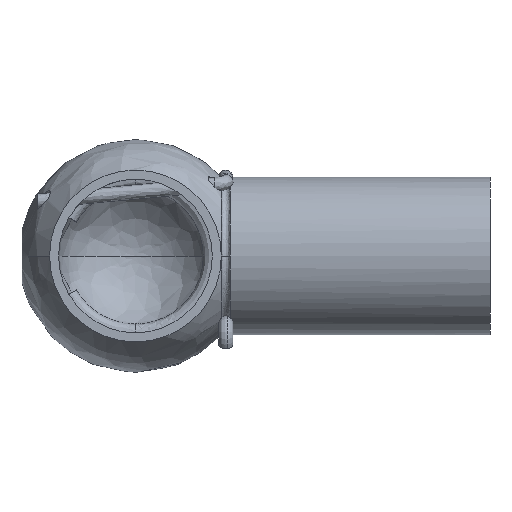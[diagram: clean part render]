
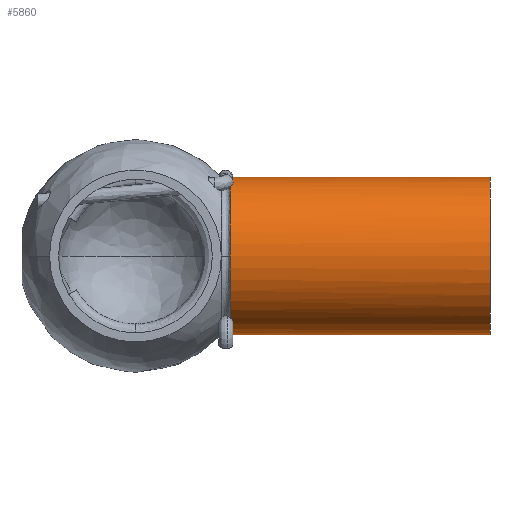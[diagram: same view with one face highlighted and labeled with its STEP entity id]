
A CAD part, front view. The second image highlights one B-rep face of the part: STEP entity #5860.
In plain terms, the highlighted cylindrical face has radius 6.65 mm (diameter 13.3 mm), a partial arc.
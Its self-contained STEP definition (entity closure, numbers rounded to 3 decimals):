
#10 = CARTESIAN_POINT ( 'NONE',  ( 8.241, -1.156, -6.574 ) ) ;
#125 = CIRCLE ( 'NONE', #985, 6.65 ) ;
#150 = CARTESIAN_POINT ( 'NONE',  ( 8.016, -4.058, -5.269 ) ) ;
#210 = VERTEX_POINT ( 'NONE', #3702 ) ;
#222 = VERTEX_POINT ( 'NONE', #7052 ) ;
#277 = CARTESIAN_POINT ( 'NONE',  ( 8.016, -3.139, 5.862 ) ) ;
#326 = ORIENTED_EDGE ( 'NONE', *, *, #5330, .F. ) ;
#537 = LINE ( 'NONE', #1420, #4936 ) ;
#609 = B_SPLINE_CURVE_WITH_KNOTS ( 'NONE', 3,
 ( #7089, #4905, #3795, #3840, #1595, #5463 ),
 .UNSPECIFIED., .F., .F.,
 ( 4, 2, 4 ),
 ( 0., 0.001, 0.003 ),
 .UNSPECIFIED. ) ;
#651 = CARTESIAN_POINT ( 'NONE',  ( 8.016, -4.058, -5.269 ) ) ;
#813 = ORIENTED_EDGE ( 'NONE', *, *, #5143, .T. ) ;
#892 = CARTESIAN_POINT ( 'NONE',  ( 8.083, -3.051, 5.91 ) ) ;
#904 = EDGE_LOOP ( 'NONE', ( #2297, #813, #3332, #1150, #2904, #326, #2282, #2200, #2356 ) ) ;
#985 = AXIS2_PLACEMENT_3D ( 'NONE', #7138, #1064, #6111 ) ;
#987 = VERTEX_POINT ( 'NONE', #2322 ) ;
#1064 = DIRECTION ( 'NONE',  ( 1., 0., 0. ) ) ;
#1081 = CARTESIAN_POINT ( 'NONE',  ( 8.241, -3.072, -5.905 ) ) ;
#1150 = ORIENTED_EDGE ( 'NONE', *, *, #3299, .T. ) ;
#1256 = CARTESIAN_POINT ( 'NONE',  ( 30., 0., -6.65 ) ) ;
#1420 = CARTESIAN_POINT ( 'NONE',  ( 6.5, 0., 6.65 ) ) ;
#1482 = CARTESIAN_POINT ( 'NONE',  ( 6.5, 0., 0. ) ) ;
#1509 = VERTEX_POINT ( 'NONE', #150 ) ;
#1575 = CIRCLE ( 'NONE', #2971, 6.65 ) ;
#1595 = CARTESIAN_POINT ( 'NONE',  ( 8.263, -2.132, 6.314 ) ) ;
#1712 = B_SPLINE_CURVE_WITH_KNOTS ( 'NONE', 3,
 ( #3426, #1733, #3359, #2870, #5603, #651 ),
 .UNSPECIFIED., .F., .F.,
 ( 4, 2, 4 ),
 ( 0., 0., 0.001 ),
 .UNSPECIFIED. ) ;
#1733 = CARTESIAN_POINT ( 'NONE',  ( 8.241, -3.46, -5.681 ) ) ;
#1773 = DIRECTION ( 'NONE',  ( -1., 0., 0. ) ) ;
#2200 = ORIENTED_EDGE ( 'NONE', *, *, #2549, .T. ) ;
#2282 = ORIENTED_EDGE ( 'NONE', *, *, #5878, .T. ) ;
#2297 = ORIENTED_EDGE ( 'NONE', *, *, #6933, .F. ) ;
#2322 = CARTESIAN_POINT ( 'NONE',  ( 8.241, 0.001, 6.65 ) ) ;
#2329 = CARTESIAN_POINT ( 'NONE',  ( 30., 0., 0. ) ) ;
#2354 = EDGE_CURVE ( 'NONE', #4524, #1509, #125, .T. ) ;
#2356 = ORIENTED_EDGE ( 'NONE', *, *, #6119, .T. ) ;
#2439 = LINE ( 'NONE', #4005, #5292 ) ;
#2450 = DIRECTION ( 'NONE',  ( 1., 0., 0. ) ) ;
#2452 = VERTEX_POINT ( 'NONE', #6043 ) ;
#2549 = EDGE_CURVE ( 'NONE', #6257, #7026, #2439, .T. ) ;
#2706 = CARTESIAN_POINT ( 'NONE',  ( 8.241, -2.81, -6.034 ) ) ;
#2829 = B_SPLINE_CURVE_WITH_KNOTS ( 'NONE', 3,
 ( #277, #892, #6892, #4123, #5790, #5269 ),
 .UNSPECIFIED., .F., .F.,
 ( 4, 2, 4 ),
 ( 0., 0., 0.001 ),
 .UNSPECIFIED. ) ;
#2870 = CARTESIAN_POINT ( 'NONE',  ( 8.186, -3.845, -5.428 ) ) ;
#2904 = ORIENTED_EDGE ( 'NONE', *, *, #2354, .T. ) ;
#2971 = AXIS2_PLACEMENT_3D ( 'NONE', #4660, #2450, #3004 ) ;
#3004 = DIRECTION ( 'NONE',  ( 0., 0., -1. ) ) ;
#3133 = CARTESIAN_POINT ( 'NONE',  ( 8.242, -2.533, 6.149 ) ) ;
#3299 = EDGE_CURVE ( 'NONE', #2452, #4524, #1575, .T. ) ;
#3332 = ORIENTED_EDGE ( 'NONE', *, *, #4487, .F. ) ;
#3359 = CARTESIAN_POINT ( 'NONE',  ( 8.241, -3.591, -5.599 ) ) ;
#3421 = CARTESIAN_POINT ( 'NONE',  ( 8.241, 0., -6.65 ) ) ;
#3426 = CARTESIAN_POINT ( 'NONE',  ( 8.241, -3.325, -5.759 ) ) ;
#3453 = DIRECTION ( 'NONE',  ( 1., 0., 0. ) ) ;
#3702 = CARTESIAN_POINT ( 'NONE',  ( 30., 0., 6.65 ) ) ;
#3795 = CARTESIAN_POINT ( 'NONE',  ( 8.241, -0.864, 6.608 ) ) ;
#3832 = CARTESIAN_POINT ( 'NONE',  ( 8.241, -0.585, -6.65 ) ) ;
#3840 = CARTESIAN_POINT ( 'NONE',  ( 8.25, -1.715, 6.44 ) ) ;
#4005 = CARTESIAN_POINT ( 'NONE',  ( 6.5, 0., -6.65 ) ) ;
#4123 = CARTESIAN_POINT ( 'NONE',  ( 8.211, -2.753, 6.055 ) ) ;
#4479 = B_SPLINE_CURVE_WITH_KNOTS ( 'NONE', 3,
 ( #6628, #1081, #2706, #6079, #4943, #10, #3832, #6653 ),
 .UNSPECIFIED., .F., .F.,
 ( 4, 2, 2, 4 ),
 ( 0., 0.001, 0.002, 0.003 ),
 .UNSPECIFIED. ) ;
#4487 = EDGE_CURVE ( 'NONE', #2452, #5665, #2829, .T. ) ;
#4524 = VERTEX_POINT ( 'NONE', #6375 ) ;
#4583 = CYLINDRICAL_SURFACE ( 'NONE', #4594, 6.65 ) ;
#4594 = AXIS2_PLACEMENT_3D ( 'NONE', #1482, #5359, #4921 ) ;
#4660 = CARTESIAN_POINT ( 'NONE',  ( 8.016, 0., 0. ) ) ;
#4905 = CARTESIAN_POINT ( 'NONE',  ( 8.244, -0.433, 6.65 ) ) ;
#4921 = DIRECTION ( 'NONE',  ( 0., 0., -1. ) ) ;
#4936 = VECTOR ( 'NONE', #5326, 1000. ) ;
#4943 = CARTESIAN_POINT ( 'NONE',  ( 8.241, -1.994, -6.351 ) ) ;
#5026 = FACE_OUTER_BOUND ( 'NONE', #904, .T. ) ;
#5143 = EDGE_CURVE ( 'NONE', #987, #5665, #609, .T. ) ;
#5269 = CARTESIAN_POINT ( 'NONE',  ( 8.242, -2.533, 6.149 ) ) ;
#5292 = VECTOR ( 'NONE', #3453, 1000. ) ;
#5326 = DIRECTION ( 'NONE',  ( 1., 0., 0. ) ) ;
#5330 = EDGE_CURVE ( 'NONE', #222, #1509, #1712, .T. ) ;
#5359 = DIRECTION ( 'NONE',  ( 1., 0., 0. ) ) ;
#5463 = CARTESIAN_POINT ( 'NONE',  ( 8.242, -2.533, 6.149 ) ) ;
#5603 = CARTESIAN_POINT ( 'NONE',  ( 8.127, -3.968, -5.338 ) ) ;
#5665 = VERTEX_POINT ( 'NONE', #3133 ) ;
#5790 = CARTESIAN_POINT ( 'NONE',  ( 8.234, -2.644, 6.103 ) ) ;
#5860 = ADVANCED_FACE ( 'NONE', ( #5026 ), #4583, .T. ) ;
#5878 = EDGE_CURVE ( 'NONE', #222, #6257, #4479, .T. ) ;
#5888 = CIRCLE ( 'NONE', #6133, 6.65 ) ;
#6043 = CARTESIAN_POINT ( 'NONE',  ( 8.016, -3.139, 5.862 ) ) ;
#6079 = CARTESIAN_POINT ( 'NONE',  ( 8.241, -2.272, -6.257 ) ) ;
#6111 = DIRECTION ( 'NONE',  ( 0., 0., -1. ) ) ;
#6119 = EDGE_CURVE ( 'NONE', #7026, #210, #5888, .T. ) ;
#6133 = AXIS2_PLACEMENT_3D ( 'NONE', #2329, #1773, #6195 ) ;
#6195 = DIRECTION ( 'NONE',  ( 0., 0., -1. ) ) ;
#6257 = VERTEX_POINT ( 'NONE', #3421 ) ;
#6375 = CARTESIAN_POINT ( 'NONE',  ( 8.016, -6.65, 0. ) ) ;
#6628 = CARTESIAN_POINT ( 'NONE',  ( 8.241, -3.325, -5.759 ) ) ;
#6653 = CARTESIAN_POINT ( 'NONE',  ( 8.241, 0., -6.65 ) ) ;
#6892 = CARTESIAN_POINT ( 'NONE',  ( 8.135, -2.956, 5.958 ) ) ;
#6933 = EDGE_CURVE ( 'NONE', #987, #210, #537, .T. ) ;
#7026 = VERTEX_POINT ( 'NONE', #1256 ) ;
#7052 = CARTESIAN_POINT ( 'NONE',  ( 8.241, -3.325, -5.759 ) ) ;
#7089 = CARTESIAN_POINT ( 'NONE',  ( 8.241, 0.001, 6.65 ) ) ;
#7138 = CARTESIAN_POINT ( 'NONE',  ( 8.016, 0., 0. ) ) ;
